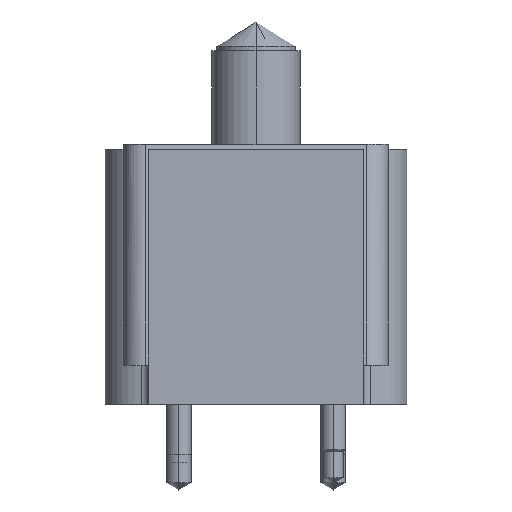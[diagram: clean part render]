
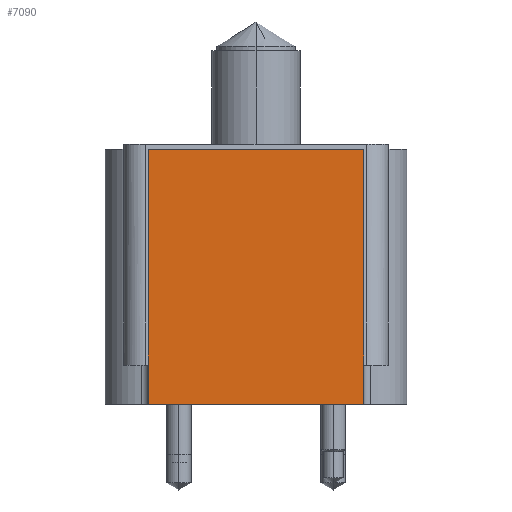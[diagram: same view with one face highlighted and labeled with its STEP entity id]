
A CAD part, left-side view. The second image highlights one B-rep face of the part: STEP entity #7090.
In plain terms, the highlighted planar face has unit normal (-1, 0, 0).
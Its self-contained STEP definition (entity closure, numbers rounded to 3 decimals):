
#6916=CARTESIAN_POINT('',(-84.201,34.988,82.55));
#6917=VERTEX_POINT('',#6916);
#6924=CARTESIAN_POINT('',(-84.201,-34.988,82.55));
#6925=VERTEX_POINT('',#6924);
#6926=CARTESIAN_POINT('',(-84.201,0.0,82.55));
#6927=DIRECTION('',(0.0,1.0,0.0));
#6928=VECTOR('',#6927,1.0);
#6929=LINE('',#6926,#6928);
#6930=EDGE_CURVE('',#6925,#6917,#6929,.T.);
#7060=CARTESIAN_POINT('',(-84.201,34.988,0.0));
#7061=VERTEX_POINT('',#7060);
#7062=CARTESIAN_POINT('',(-84.201,34.988,0.0));
#7063=DIRECTION('',(0.0,0.0,1.0));
#7064=VECTOR('',#7063,1.0);
#7065=LINE('',#7062,#7064);
#7066=EDGE_CURVE('',#7061,#6917,#7065,.T.);
#7067=ORIENTED_EDGE('',*,*,#7066,.F.);
#7068=CARTESIAN_POINT('',(-84.201,-34.988,0.0));
#7069=VERTEX_POINT('',#7068);
#7070=CARTESIAN_POINT('',(-84.201,0.0,0.0));
#7071=DIRECTION('',(0.0,-1.0,0.0));
#7072=VECTOR('',#7071,1.0);
#7073=LINE('',#7070,#7072);
#7074=EDGE_CURVE('',#7061,#7069,#7073,.T.);
#7075=ORIENTED_EDGE('',*,*,#7074,.T.);
#7076=CARTESIAN_POINT('',(-84.201,-34.988,0.0));
#7077=DIRECTION('',(0.0,0.0,-1.0));
#7078=VECTOR('',#7077,1.0);
#7079=LINE('',#7076,#7078);
#7080=EDGE_CURVE('',#6925,#7069,#7079,.T.);
#7081=ORIENTED_EDGE('',*,*,#7080,.F.);
#7082=ORIENTED_EDGE('',*,*,#6930,.T.);
#7083=EDGE_LOOP('',(#7067,#7075,#7081,#7082));
#7084=FACE_OUTER_BOUND('',#7083,.T.);
#7085=CARTESIAN_POINT('',(-84.201,0.0,0.0));
#7086=DIRECTION('',(-1.0,0.0,-0.0));
#7087=DIRECTION('',(-0.0,0.0,1.0));
#7088=AXIS2_PLACEMENT_3D('',#7085,#7086,#7087);
#7089=PLANE('',#7088);
#7090=ADVANCED_FACE('',(#7084),#7089,.T.);
